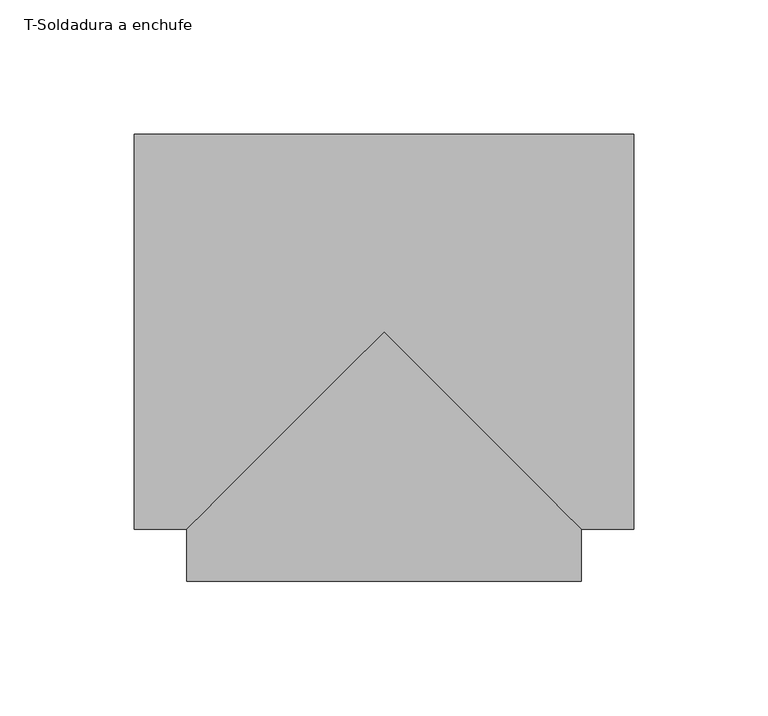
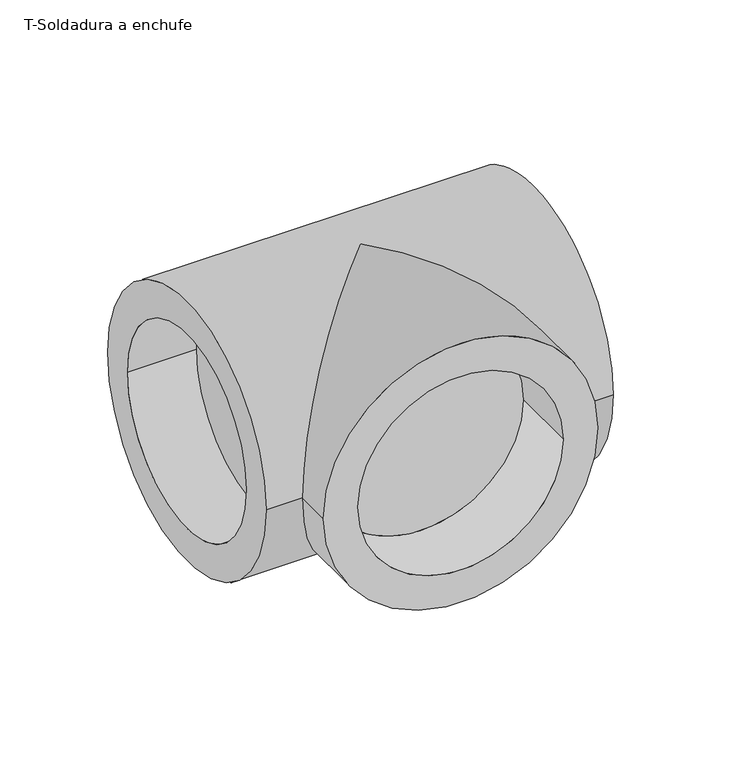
"""IFC4 building model written with IfcOpenShell, lengths in millimetres: pipe fitting geometry, T-Soldadura a enchufe : Estándar."""

from ifc_helpers import new_model, si_unit, frame, origin, place, context, project, spatial, polyline, circle_curve, ellipse_curve, source, transform, mapped, element, save
from ifc_brep_helpers import plane_surface, cylinder_surface, revolved_surface, advanced_brep


def t_soldadura_a_enchufe_4b0a6972(model_context):
    return source(origin(), model_context, "Body", "AdvancedBrep", [
        advanced_brep(
        [(-93.0, -73.5, 0.0), (-93.0, 73.5, 0.0), (-93.0, -55.0, 0.0), (-93.0, 55.0, 0.0), (93.0, -73.5, 0.0), (93.0, 73.5, 0.0), (93.0, -55.0, 0.0), (93.0, 55.0, 0.0), (-73.5, -73.5, 0.0), (0.0, 0.0, 73.5), (73.5, -73.5, 0.0), (0.0, 0.0, -73.5), (-73.5, -93.0, 0.0), (73.5, -93.0, 0.0), (55.0, -93.0, 0.0), (-55.0, -93.0, 0.0), (-56.0, -55.0, 0.0), (-56.0, 55.0, 0.0), (56.0, -55.0, 0.0), (56.0, 55.0, 0.0), (-55.0, -56.0, 0.0), (55.0, -56.0, 0.0)],
        [
            (0, 1, circle_curve(frame((-93.0, 0.0, 0.0), z_axis=(-1.0, 0.0, 0.0), x_axis=(0.0, 1.0, 0.0)), 73.5)),
            (1, 0, circle_curve(frame((-93.0, 0.0, 0.0), z_axis=(-1.0, 0.0, 0.0), x_axis=(0.0, 1.0, 0.0)), 73.5)),
            (2, 3, circle_curve(frame((-93.0, 0.0, 0.0), z_axis=(1.0, 0.0, 0.0), x_axis=(0.0, 1.0, 0.0)), 55.0)),
            (3, 2, circle_curve(frame((-93.0, 0.0, 0.0), z_axis=(1.0, 0.0, 0.0), x_axis=(0.0, 1.0, 0.0)), 55.0)),
            (4, 5, circle_curve(frame((93.0, 0.0, 0.0), z_axis=(1.0, 0.0, 0.0), x_axis=(0.0, 1.0, 0.0)), 73.5)),
            (5, 4, circle_curve(frame((93.0, 0.0, 0.0), z_axis=(1.0, 0.0, 0.0), x_axis=(0.0, 1.0, 0.0)), 73.5)),
            (6, 7, circle_curve(frame((93.0, 0.0, 0.0), z_axis=(-1.0, 0.0, 0.0), x_axis=(0.0, 1.0, 0.0)), 55.0)),
            (7, 6, circle_curve(frame((93.0, 0.0, 0.0), z_axis=(-1.0, 0.0, 0.0), x_axis=(0.0, 1.0, 0.0)), 55.0)),
            (0, 8),
            (8, 9, ellipse_curve(frame((0.0, 0.0, 0.0), z_axis=(-0.707106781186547, 0.7071067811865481, 0.0), x_axis=(-0.707106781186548, -0.707106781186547, 0.0)), 103.9446968, 73.5)),
            (9, 10, ellipse_curve(frame((0.0, 0.0, 0.0), z_axis=(0.707106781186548, 0.7071067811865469, 0.0), x_axis=(-0.707106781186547, 0.707106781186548, 0.0)), 103.9446968, 73.5)),
            (10, 4),
            (5, 1),
            (10, 11, ellipse_curve(frame((0.0, 0.0, 0.0), z_axis=(0.707106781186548, 0.7071067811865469, 0.0), x_axis=(-0.707106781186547, 0.707106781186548, 0.0)), 103.9446968, 73.5)),
            (11, 8, ellipse_curve(frame((0.0, 0.0, 0.0), z_axis=(-0.707106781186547, 0.7071067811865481, 0.0), x_axis=(-0.707106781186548, -0.707106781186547, 0.0)), 103.9446968, 73.5)),
            (12, 13, circle_curve(frame((0.0, -93.0, 0.0), z_axis=(0.0, -1.0, 0.0), x_axis=(1.0, 0.0, 0.0)), 73.5)),
            (13, 12, circle_curve(frame((0.0, -93.0, 0.0), z_axis=(0.0, -1.0, 0.0), x_axis=(1.0, 0.0, 0.0)), 73.5)),
            (14, 15, circle_curve(frame((0.0, -93.0, 0.0), z_axis=(0.0, 1.0, 0.0), x_axis=(1.0, 0.0, 0.0)), 55.0)),
            (15, 14, circle_curve(frame((0.0, -93.0, 0.0), z_axis=(0.0, 1.0, 0.0), x_axis=(1.0, 0.0, 0.0)), 55.0)),
            (13, 10),
            (8, 12),
            (16, 17, circle_curve(frame((-56.0, 0.0, 0.0), z_axis=(-1.0, 0.0, 0.0), x_axis=(0.0, 1.0, 0.0)), 55.0)),
            (17, 16, circle_curve(frame((-56.0, 0.0, 0.0), z_axis=(-1.0, 0.0, 0.0), x_axis=(0.0, 1.0, 0.0)), 55.0)),
            (17, 3),
            (2, 16),
            (18, 19, circle_curve(frame((56.0, 0.0, 0.0), z_axis=(1.0, 0.0, 0.0), x_axis=(0.0, 1.0, 0.0)), 55.0)),
            (19, 18, circle_curve(frame((56.0, 0.0, 0.0), z_axis=(1.0, 0.0, 0.0), x_axis=(0.0, 1.0, 0.0)), 55.0)),
            (19, 7),
            (6, 18),
            (20, 21, circle_curve(frame((0.0, -56.0, 0.0), z_axis=(0.0, -1.0, 0.0), x_axis=(1.0, 0.0, 0.0)), 55.0)),
            (21, 20, circle_curve(frame((0.0, -56.0, 0.0), z_axis=(0.0, -1.0, 0.0), x_axis=(1.0, 0.0, 0.0)), 55.0)),
            (20, 15),
            (14, 21),
        ],
        [
            plane_surface(frame((-93.0, 0.0, 0.0), z_axis=(-1.0, 0.0, 0.0), x_axis=(0.0, 0.0, 1.0))),
            plane_surface(frame((93.0, 0.0, 0.0), z_axis=(1.0, 0.0, 0.0), x_axis=(0.0, 0.0, 1.0))),
            cylinder_surface(frame((-93.0, 0.0, 0.0), z_axis=(-1.0, 0.0, 0.0), x_axis=(0.0, 1.0, 0.0)), 73.5),
            plane_surface(frame((0.0, -93.0, 0.0), z_axis=(0.0, -1.0, 0.0), x_axis=(0.0, 0.0, 1.0))),
            cylinder_surface(frame((0.0, 0.0, 0.0), z_axis=(0.0, 1.0, 0.0), x_axis=(1.0, 0.0, 0.0)), 73.5),
            plane_surface(frame((-56.0, 55.0, 0.0), z_axis=(-1.0, 0.0, 0.0), x_axis=(0.0, 0.0, 1.0))),
            revolved_surface(polyline([(-56.0, 55.0, 0.0), (-93.0, 55.0, 0.0)]), (-93.0, 0.0, 0.0), (1.0, 0.0, 0.0)),
            plane_surface(frame((56.0, 55.0, 0.0), z_axis=(1.0, 0.0, 0.0), x_axis=(0.0, 0.0, -1.0))),
            revolved_surface(polyline([(56.0, 55.0, 0.0), (93.0, 55.0, 0.0)]), (93.0, 0.0, 0.0), (-1.0, 0.0, 0.0)),
            plane_surface(frame((55.0, -56.0, 0.0), z_axis=(0.0, -1.0, 0.0), x_axis=(0.0, 0.0, -1.0))),
            revolved_surface(polyline([(55.0, -93.0, 0.0), (55.0, -56.0, 0.0)]), (0.0, -56.0, 0.0), (0.0, -1.0, 0.0)),
        ],
        [
            (0, [[1, 2], [3, 4]]),
            (1, [[5, 6], [7, 8]]),
            (2, [[-1, 9, 10, 11, 12, -6, 13]]),
            (2, [[-2, -13, -5, -12, 14, 15, -9]]),
            (3, [[16, 17], [18, 19]]),
            (4, [[-17, 20, -11, -10, 21]]),
            (4, [[-16, -21, -15, -14, -20]]),
            (5, [[22, 23]]),
            (6, [[-23, 24, -3, 25]]),
            (6, [[-22, -25, -4, -24]]),
            (7, [[26, 27]]),
            (8, [[-27, 28, -7, 29]]),
            (8, [[-26, -29, -8, -28]]),
            (9, [[30, 31]]),
            (10, [[-30, 32, -18, 33]]),
            (10, [[-31, -33, -19, -32]]),
        ],
    ),
    ])


if __name__ == "__main__":
    model = new_model("IFC4")
    model_context = context("Model", 3, world=origin())
    ifc_project = project(units=[si_unit("LENGTHUNIT", "METRE", prefix="MILLI")], contexts=[model_context])
    site = spatial("IfcSite", under=ifc_project)
    building = spatial("IfcBuilding", under=site)
    placement = place(None, origin())
    t_soldadura_a_enchufe_shape = t_soldadura_a_enchufe_4b0a6972(model_context)
    element("IfcPipeFitting", 1, ObjectType="T-Soldadura a enchufe : Estándar", at=placement, inside=building, context=model_context, shape_type="MappedRepresentation", body=[
        mapped(t_soldadura_a_enchufe_shape, transform((0.0, 0.0, 0.0), x_axis=(1.0, 0.0, 0.0), y_axis=(0.0, 1.0, 0.0), z_axis=(0.0, 0.0, 1.0))),
    ])
    save(model, "model.ifc")
